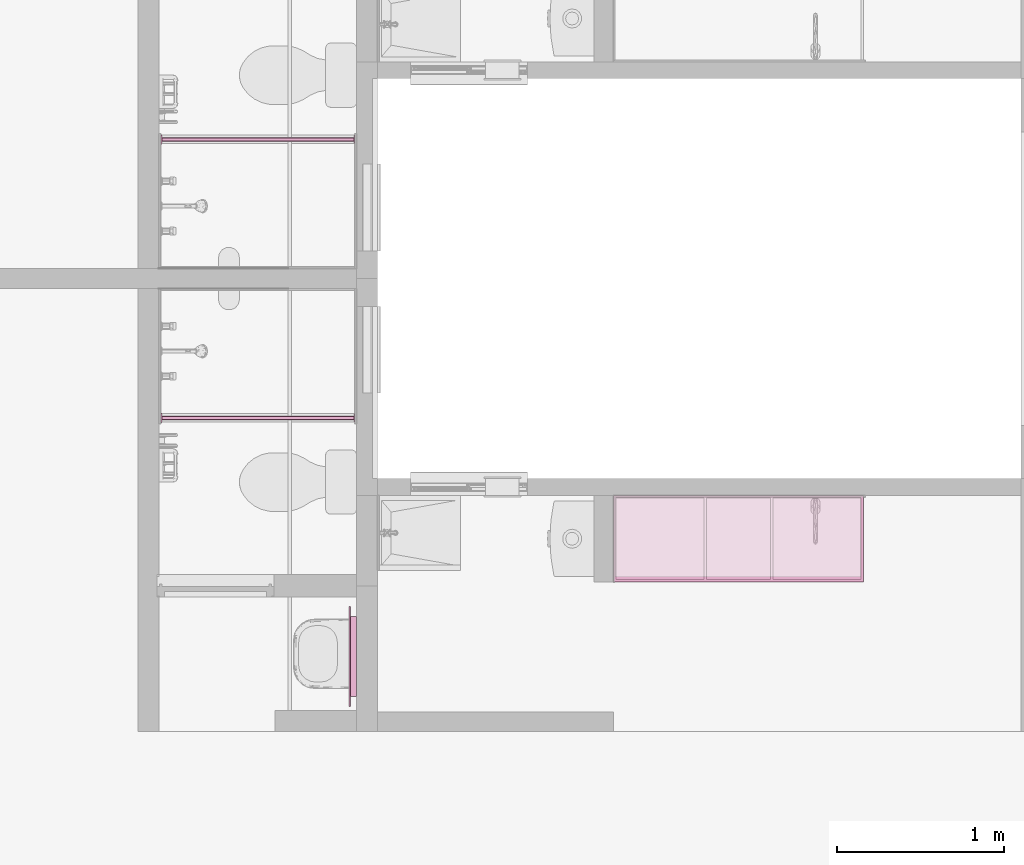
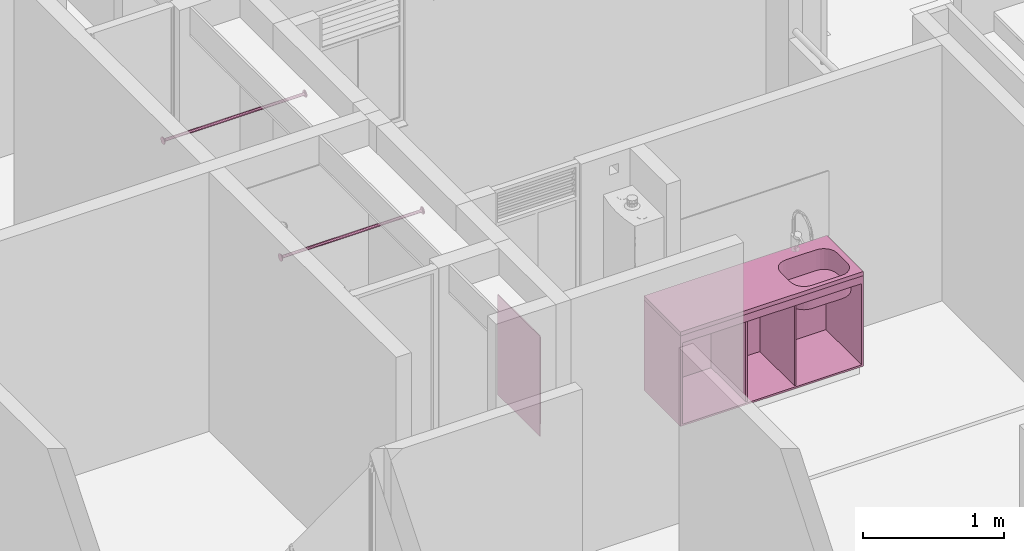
# One storey, part 42 of 48: 5 furniture elements.
"""IFC4 building model written with IfcOpenShell, lengths in metres."""

from ifc_helpers import new_model, entity, si_unit, converted_unit, derived_unit, direction, frame, origin, place, context, subcontext, project, spatial, arc, indexed_curve, outline, extrude, polygons, source, transform, mapped, material, constituent, constituent_set, type_object, type_shapes, element, save


model = new_model("IFC4")

# Units and contexts
model_context = context("Model", 3, precision=1e-05, world=origin(), true_north=direction((6.123031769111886e-17, 1.0)))
body_context = subcontext(model_context, "Body", "Model", "MODEL_VIEW")
ifc_project = project(units=[si_unit("LENGTHUNIT", "METRE"), si_unit("AREAUNIT", "SQUARE_METRE"), si_unit("VOLUMEUNIT", "CUBIC_METRE"), converted_unit("PLANEANGLEUNIT", "DEGREE", entity("IfcRatioMeasure", 0.017453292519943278), si_unit("PLANEANGLEUNIT", "RADIAN"), dimensions=[0, 0, 0, 0, 0, 0, 0]), si_unit("MASSUNIT", "GRAM", prefix="KILO"), derived_unit("MASSDENSITYUNIT", [(si_unit("MASSUNIT", "GRAM", prefix="KILO"), 1), (si_unit("LENGTHUNIT", "METRE"), -3)]), derived_unit("IONCONCENTRATIONUNIT", [(si_unit("MASSUNIT", "GRAM", prefix="KILO"), 1), (si_unit("LENGTHUNIT", "METRE"), -3)]), derived_unit("MOMENTOFINERTIAUNIT", [(si_unit("LENGTHUNIT", "METRE"), 4)]), si_unit("TIMEUNIT", "SECOND"), si_unit("FREQUENCYUNIT", "HERTZ"), si_unit("THERMODYNAMICTEMPERATUREUNIT", "DEGREE_CELSIUS"), derived_unit("THERMALTRANSMITTANCEUNIT", [(si_unit("MASSUNIT", "GRAM", prefix="KILO"), 1), (si_unit("THERMODYNAMICTEMPERATUREUNIT", "KELVIN"), -1), (si_unit("TIMEUNIT", "SECOND"), -3)]), derived_unit("THERMALCONDUCTANCEUNIT", [(si_unit("MASSUNIT", "GRAM", prefix="KILO"), 1), (si_unit("THERMODYNAMICTEMPERATUREUNIT", "KELVIN"), -1), (si_unit("TIMEUNIT", "SECOND"), -3), (si_unit("LENGTHUNIT", "METRE"), 1)]), derived_unit("VOLUMETRICFLOWRATEUNIT", [(si_unit("LENGTHUNIT", "METRE"), 3), (si_unit("TIMEUNIT", "SECOND"), -1)]), derived_unit("MASSFLOWRATEUNIT", [(si_unit("MASSUNIT", "GRAM", prefix="KILO"), 1), (si_unit("TIMEUNIT", "SECOND"), -1)]), derived_unit("ROTATIONALFREQUENCYUNIT", [(si_unit("TIMEUNIT", "SECOND"), -1)]), si_unit("ELECTRICCURRENTUNIT", "AMPERE"), si_unit("ELECTRICVOLTAGEUNIT", "VOLT"), si_unit("POWERUNIT", "WATT"), si_unit("FORCEUNIT", "NEWTON", prefix="KILO"), si_unit("ILLUMINANCEUNIT", "LUX"), si_unit("LUMINOUSFLUXUNIT", "LUMEN"), si_unit("LUMINOUSINTENSITYUNIT", "CANDELA"), derived_unit("USERDEFINED", [(si_unit("MASSUNIT", "GRAM", prefix="KILO"), -1), (si_unit("LENGTHUNIT", "METRE"), -2), (si_unit("TIMEUNIT", "SECOND"), 3), (si_unit("LUMINOUSFLUXUNIT", "LUMEN"), 1)]), derived_unit("USERDEFINED", [(si_unit("MASSUNIT", "GRAM", prefix="KILO"), 1), (si_unit("TIMEUNIT", "SECOND"), -3), (si_unit("LENGTHUNIT", "METRE"), 3), (si_unit("ELECTRICCURRENTUNIT", "AMPERE"), -2)]), derived_unit("SOUNDPOWERUNIT", [(si_unit("MASSUNIT", "GRAM", prefix="KILO"), 1), (si_unit("TIMEUNIT", "SECOND"), -3), (si_unit("LENGTHUNIT", "METRE"), 2)]), derived_unit("SOUNDPRESSUREUNIT", [(si_unit("MASSUNIT", "GRAM", prefix="KILO"), 1), (si_unit("LENGTHUNIT", "METRE"), -1), (si_unit("TIMEUNIT", "SECOND"), -2)]), derived_unit("LINEARVELOCITYUNIT", [(si_unit("LENGTHUNIT", "METRE"), 1), (si_unit("TIMEUNIT", "SECOND"), -1)]), si_unit("PRESSUREUNIT", "PASCAL"), derived_unit("USERDEFINED", [(si_unit("MASSUNIT", "GRAM", prefix="KILO"), 1), (si_unit("LENGTHUNIT", "METRE"), -2), (si_unit("TIMEUNIT", "SECOND"), -2)]), derived_unit("LINEARFORCEUNIT", [(si_unit("MASSUNIT", "GRAM", prefix="KILO"), 1), (si_unit("TIMEUNIT", "SECOND"), -2)]), derived_unit("PLANARFORCEUNIT", [(si_unit("MASSUNIT", "GRAM", prefix="KILO"), 1), (si_unit("LENGTHUNIT", "METRE"), -1), (si_unit("TIMEUNIT", "SECOND"), -2)]), derived_unit("SPECIFICHEATCAPACITYUNIT", [(si_unit("THERMODYNAMICTEMPERATUREUNIT", "KELVIN"), -1), (si_unit("LENGTHUNIT", "METRE"), 2), (si_unit("TIMEUNIT", "SECOND"), -2)]), derived_unit("HEATINGVALUEUNIT", [(si_unit("LENGTHUNIT", "METRE"), 2), (si_unit("TIMEUNIT", "SECOND"), -2)]), derived_unit("VAPORPERMEABILITYUNIT", [(si_unit("LENGTHUNIT", "METRE"), -1), (si_unit("TIMEUNIT", "SECOND"), 1)]), derived_unit("DYNAMICVISCOSITYUNIT", [(si_unit("MASSUNIT", "GRAM", prefix="KILO"), 1), (si_unit("TIMEUNIT", "SECOND"), -1), (si_unit("LENGTHUNIT", "METRE"), -1)]), derived_unit("THERMALEXPANSIONCOEFFICIENTUNIT", [(si_unit("THERMODYNAMICTEMPERATUREUNIT", "KELVIN"), -1)]), derived_unit("MODULUSOFELASTICITYUNIT", [(si_unit("MASSUNIT", "GRAM", prefix="KILO"), 1), (si_unit("LENGTHUNIT", "METRE"), -1), (si_unit("TIMEUNIT", "SECOND"), -2)]), derived_unit("ISOTHERMALMOISTURECAPACITYUNIT", [(si_unit("LENGTHUNIT", "METRE"), 3), (si_unit("MASSUNIT", "GRAM", prefix="KILO"), -1)]), derived_unit("MOISTUREDIFFUSIVITYUNIT", [(si_unit("TIMEUNIT", "SECOND"), -1), (si_unit("LENGTHUNIT", "METRE"), 2)])], contexts=[model_context])

# Site, building, storey
site_placement = place(None, origin())
site = spatial("IfcSite", under=ifc_project, at=site_placement, Name="Default", CompositionType="ELEMENT")
building_placement = place(site_placement, origin())
building = spatial("IfcBuilding", under=site, at=building_placement, CompositionType="ELEMENT")
storey_placement = place(building_placement, frame((0.0, 0.0, 7.050000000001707)))
storey = spatial("IfcBuildingStorey", under=building, at=storey_placement, Name="Nivel 4", CompositionType="ELEMENT", Elevation=7.050000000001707)

# Furniture
ifc_material_1 = material(Name="Aluminio", Category="Materials")
ifc_constituent_1 = constituent(ifc_material_1, Name="Aluminio", Category="Materials")
ifc_material_2 = material(Name="ESPEJO", Category="Materials")
ifc_constituent_2 = constituent(ifc_material_2, Name="ESPEJO", Category="Materials")
ifc_constituent_set_1 = constituent_set(constituents=[ifc_constituent_1, ifc_constituent_2])
ifc_constituent_3 = constituent(ifc_material_1, Name="Aluminio", Category="Materials")
ifc_constituent_4 = constituent(ifc_material_2, Name="ESPEJO", Category="Materials")
ifc_constituent_set_2 = constituent_set(constituents=[ifc_constituent_3, ifc_constituent_4])
furniture_type_1 = type_object("IfcFurnitureType", Name="E2050 - Espejo:E2050 - 0.60m x 0.87m - Espejo", AssemblyPlace="NOTDEFINED", PredefinedType="NOTDEFINED", material=ifc_constituent_set_2)
shared_shape_1 = source(origin(), body_context, "Body", "SweptSolid", [
    extrude(outline(indexed_curve([(-0.23999999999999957, -0.3749999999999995), (0.2399999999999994, -0.3749999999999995), (0.2399999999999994, 0.37499999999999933), (-0.23999999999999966, 0.3749999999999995), (-0.23999999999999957, -0.3749999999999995)], self_intersect=False), holes=[indexed_curve([(0.2149999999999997, -0.34999999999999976), (-0.21499999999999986, -0.34999999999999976), (-0.21499999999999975, 0.34999999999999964), (0.2149999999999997, 0.34999999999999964), (0.2149999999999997, -0.34999999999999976)], self_intersect=False)]), frame((0.12499999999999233, 0.062499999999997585, 1.485), z_axis=(0.0, 1.0, 0.0), x_axis=(1.0, 0.0, 0.0)), (0.0, 0.0, 1.0), 0.037500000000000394),
    extrude(outline(indexed_curve([(-0.00350000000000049, -0.30000000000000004), (0.00350000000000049, -0.30000000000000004), (0.00350000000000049, 0.30000000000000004), (-0.00350000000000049, 0.30000000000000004), (-0.00350000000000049, -0.30000000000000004)], self_intersect=False)), frame((0.1249999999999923, 0.10350000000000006, 1.05), z_axis=(0.0, 0.0, 1.0), x_axis=(0.0, 1.0, 0.0)), (0.0, 0.0, 1.0), 0.87),
])
type_shapes(furniture_type_1, [shared_shape_1])
furniture_1_placement = place(storey_placement, frame((4.024999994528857, -8.815000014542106, -0.02000000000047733), z_axis=(0.0, 0.0, 1.0), x_axis=(0.0, 1.0, 0.0)))
element("IfcFurniture", 1, at=furniture_1_placement, inside=storey, type_object=furniture_type_1, material=ifc_constituent_set_1, Name="E2050 - Espejo:E2050 - 0.60m x 0.87m - Espejo", ObjectType="E2050 - Espejo:E2050 - 0.60m x 0.87m - Espejo", PredefinedType="NOTDEFINED", context=body_context, shape_type="MappedRepresentation", body=[
    mapped(shared_shape_1, transform((0.0, 0.0, 0.0), scale=1.0)),
])

# Space
space_1_placement = place(storey_placement, origin())
space_1 = spatial("IfcSpace", under=storey, at=space_1_placement, Name="210", CompositionType="ELEMENT", PredefinedType="SPACE")

# Furniture
ifc_material_3 = material(Name="<Unnamed>")
furniture_type_2 = type_object("IfcFurnitureType", Name="Barra baño:E2050- Barra Baño- Acero inoxidable", AssemblyPlace="NOTDEFINED", PredefinedType="NOTDEFINED", material=ifc_material_3)
shared_shape_2 = source(origin(), body_context, "Body", "SweptSolid", [
    extrude(outline(indexed_curve([(-0.025, 0.0), (-9.341026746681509e-17, -0.025), (0.025, 2.707167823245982e-16), (-1.316959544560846e-16, 0.025)], segments=[arc(1, 2, 3), arc(3, 4, 1)], self_intersect=False)), frame((-1.1599989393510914, 0.0, 1.8000000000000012), z_axis=(1.0, 0.0, 0.0), x_axis=(0.0, 1.0, 0.0)), (0.0, 0.0, 1.0), 0.005000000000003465),
    extrude(outline(indexed_curve([(-0.03, 0.0), (-1.1209232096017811e-16, -0.029999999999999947), (0.03, 2.707167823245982e-16), (-1.3138979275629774e-16, 0.029999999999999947)], segments=[arc(1, 2, 3), arc(3, 4, 1)], self_intersect=False)), frame((-1.164998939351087, 0.0, 1.8000000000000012), z_axis=(1.0, 0.0, 0.0), x_axis=(0.0, 1.0, 0.0)), (0.0, 0.0, 1.0), 0.0049999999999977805),
    extrude(outline(indexed_curve([(-0.0125, 0.0), (-4.6705133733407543e-17, -0.012499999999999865), (0.0125, 0.0), (7.654042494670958e-19, 0.012499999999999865)], segments=[arc(1, 2, 3), arc(3, 4, 1)], self_intersect=False)), frame((-1.1549989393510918, 0.0, 1.7999999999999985), z_axis=(1.0, 0.0, 0.0), x_axis=(0.0, 1.0, 0.0)), (0.0, 0.0, 1.0), 1.149998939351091),
    extrude(outline(indexed_curve([(-0.025, 0.0), (-2.2663703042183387e-16, -0.025), (0.025, 0.0), (1.5308084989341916e-18, 0.025)], segments=[arc(1, 2, 3), arc(3, 4, 1)], self_intersect=False)), frame((-0.005000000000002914, 0.0, 1.7999999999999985), z_axis=(1.0, 0.0, 0.0), x_axis=(0.0, 1.0, 0.0)), (0.0, 0.0, 1.0), 0.005000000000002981),
    extrude(outline(indexed_curve([(-0.03, 0.0), (-2.1867373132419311e-16, -0.029999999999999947), (0.03, 0.0), (1.8369701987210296e-18, 0.029999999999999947)], segments=[arc(1, 2, 3), arc(3, 4, 1)], self_intersect=False)), frame((0.0, 0.0, 1.7999999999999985), z_axis=(1.0, 0.0, 0.0), x_axis=(0.0, 1.0, 0.0)), (0.0, 0.0, 1.0), 0.00499999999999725),
])
type_shapes(furniture_type_2, [shared_shape_2])
furniture_2_placement = place(space_1_placement, frame((3.952499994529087, -7.260000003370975, 0.1299999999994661)))
element("IfcFurniture", 2, at=furniture_2_placement, inside=space_1, type_object=furniture_type_2, material=ifc_material_3, Name="Barra baño:E2050- Barra Baño- Acero inoxidable", ObjectType="Barra baño:E2050- Barra Baño- Acero inoxidable", PredefinedType="NOTDEFINED", context=body_context, shape_type="MappedRepresentation", body=[
    mapped(shared_shape_2, transform((0.0, 0.0, 0.0), scale=1.0)),
])

# Space
space_2_placement = place(storey_placement, origin())
space_2 = spatial("IfcSpace", under=storey, at=space_2_placement, Name="202", CompositionType="ELEMENT", PredefinedType="SPACE")

# Furniture
furniture_type_3 = type_object("IfcFurnitureType", Name="Barra baño:E2050- Barra Baño- Acero inoxidable", AssemblyPlace="NOTDEFINED", PredefinedType="NOTDEFINED", material=ifc_material_3)
shared_shape_3 = source(origin(), body_context, "Body", "SweptSolid", [
    extrude(outline(indexed_curve([(-0.025, 2.707167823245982e-16), (-2.9325041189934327e-16, -0.025), (0.025, 0.0), (7.924642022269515e-17, 0.025)], segments=[arc(1, 2, 3), arc(3, 4, 1)], self_intersect=False)), frame((-1.1599989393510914, 0.0, 1.8000000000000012), z_axis=(1.0, 0.0, 0.0), x_axis=(0.0, -1.0, 0.0)), (0.0, 0.0, 1.0), 0.005000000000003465),
    extrude(outline(indexed_curve([(-0.03, 2.707167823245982e-16), (-3.2525514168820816e-16, -0.029999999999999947), (0.03, 0.0), (9.509570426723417e-17, 0.029999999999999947)], segments=[arc(1, 2, 3), arc(3, 4, 1)], self_intersect=False)), frame((-1.164998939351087, 0.0, 1.8000000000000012), z_axis=(1.0, 0.0, 0.0), x_axis=(0.0, -1.0, 0.0)), (0.0, 0.0, 1.0), 0.0049999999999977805),
    extrude(outline(indexed_curve([(-0.0125, 0.0), (-8.001182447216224e-17, -0.012499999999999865), (0.0125, 0.0), (3.9623210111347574e-17, 0.012499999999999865)], segments=[arc(1, 2, 3), arc(3, 4, 1)], self_intersect=False)), frame((-1.1549989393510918, 0.0, 1.7999999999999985), z_axis=(1.0, 0.0, 0.0), x_axis=(0.0, -1.0, 0.0)), (0.0, 0.0, 1.0), 1.149998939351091),
    extrude(outline(indexed_curve([(-0.025, 0.0), (-1.600236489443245e-16, -0.025000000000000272), (0.025, 0.0), (-5.398034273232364e-17, 0.02499999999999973)], segments=[arc(1, 2, 3), arc(3, 4, 1)], self_intersect=False)), frame((-0.005000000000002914, 0.0, 1.7999999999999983), z_axis=(1.0, 0.0, 0.0), x_axis=(0.0, -1.0, 0.0)), (0.0, 0.0, 1.0), 0.005000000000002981),
    extrude(outline(indexed_curve([(-0.03, 0.0), (-1.9202837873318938e-16, -0.030000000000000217), (0.03, 0.0), (-3.813105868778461e-17, 0.029999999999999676)], segments=[arc(1, 2, 3), arc(3, 4, 1)], self_intersect=False)), frame((0.0, 0.0, 1.7999999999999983), z_axis=(1.0, 0.0, 0.0), x_axis=(0.0, -1.0, 0.0)), (0.0, 0.0, 1.0), 0.00499999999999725),
])
type_shapes(furniture_type_3, [shared_shape_3])
furniture_3_placement = place(space_2_placement, frame((3.952499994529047, -5.590000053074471, 0.1299999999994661)))
element("IfcFurniture", 3, at=furniture_3_placement, inside=space_2, type_object=furniture_type_3, material=ifc_material_3, Name="Barra baño:E2050- Barra Baño- Acero inoxidable", ObjectType="Barra baño:E2050- Barra Baño- Acero inoxidable", PredefinedType="NOTDEFINED", context=body_context, shape_type="MappedRepresentation", body=[
    mapped(shared_shape_3, transform((0.0, 0.0, 0.0), scale=1.0)),
])

# Space
space_3_placement = place(storey_placement, origin())
space_3 = spatial("IfcSpace", under=storey, at=space_3_placement, Name="213", CompositionType="ELEMENT", PredefinedType="SPACE")

# Furniture
ifc_material_4 = material(Name="mueble cocina", Category="Materials")
furniture_type_4 = type_object("IfcFurnitureType", Name="E2010 - Mueble bajo de cocina - Madera:E2010 - 1.50 x 0.52 - Mueble bajo de cocina - Madera", AssemblyPlace="NOTDEFINED", PredefinedType="NOTDEFINED", material=ifc_material_4)
shared_shape_4 = source(origin(), body_context, "Body", "SweptSolid", [
    extrude(outline(indexed_curve([(-0.007500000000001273, -0.7349999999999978), (0.007499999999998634, -0.7349999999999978), (0.007500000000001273, 0.7349999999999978), (-0.007499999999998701, 0.7349999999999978), (-0.007500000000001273, -0.7349999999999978)], self_intersect=False)), frame((0.04470032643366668, -0.5125000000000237, 0.8149999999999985), z_axis=(0.0, 0.0, 1.0), x_axis=(0.0, -1.0, 0.0)), (0.0, 0.0, 1.0), 0.06500000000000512),
    extrude(outline(indexed_curve([(-0.2600000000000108, -0.7499999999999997), (0.260000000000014, -0.7499999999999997), (0.2600000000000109, 0.7500000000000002), (-0.2600000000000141, 0.7499999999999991), (-0.2600000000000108, -0.7499999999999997)], self_intersect=False)), frame((0.04470032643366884, -0.2600000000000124, 0.09500000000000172), z_axis=(0.0, 0.0, 1.0), x_axis=(0.0, -1.0, 0.0)), (0.0, 0.0, 1.0), 0.0149999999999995),
    extrude(outline(indexed_curve([(-0.007500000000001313, -0.7500000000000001), (0.007499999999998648, -0.7500000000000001), (0.0075000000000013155, 0.7500000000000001), (-0.007499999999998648, 0.7500000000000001), (-0.007500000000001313, -0.7500000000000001)], self_intersect=False)), frame((0.04470032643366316, -0.00749999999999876, 0.11000000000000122), z_axis=(0.0, 0.0, 1.0), x_axis=(0.0, -1.0, 0.0)), (0.0, 0.0, 1.0), 0.7700000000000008),
    extrude(outline(indexed_curve([(-0.007500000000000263, -0.24500000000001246), (0.007499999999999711, -0.24500000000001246), (0.007500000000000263, 0.24500000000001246), (-0.007499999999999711, 0.24500000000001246), (-0.007500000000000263, -0.24500000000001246)], self_intersect=False)), frame((-0.1552996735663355, -0.2600000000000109, 0.11000000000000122), z_axis=(0.0, 0.0, 1.0), x_axis=(-1.0, 0.0, 0.0)), (0.0, 0.0, 1.0), 0.7700000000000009),
    extrude(outline(indexed_curve([(-0.007499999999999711, -0.24500000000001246), (0.007500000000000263, -0.24500000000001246), (0.007499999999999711, 0.24500000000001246), (-0.007500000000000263, 0.24500000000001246), (-0.007499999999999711, -0.24500000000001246)], self_intersect=False)), frame((0.24470032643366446, -0.26000000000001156, 0.11000000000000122), z_axis=(0.0, 0.0, 1.0), x_axis=(-1.0, 0.0, 0.0)), (0.0, 0.0, 1.0), 0.7700000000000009),
    extrude(outline(indexed_curve([(-0.00750000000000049, -0.2525000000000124), (0.0074999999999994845, -0.25250000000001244), (0.007500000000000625, 0.2525000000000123), (-0.007499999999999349, 0.2525000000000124), (-0.00750000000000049, -0.2525000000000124)], self_intersect=False)), frame((0.7872003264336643, -0.2675000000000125, 0.11000000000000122), z_axis=(0.0, 0.0, 1.0), x_axis=(-1.0, 0.0, 0.0)), (0.0, 0.0, 1.0), 0.7700000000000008),
    extrude(outline(indexed_curve([(-0.007499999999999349, -0.2525000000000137), (0.007500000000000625, -0.2525000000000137), (0.0074999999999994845, 0.25250000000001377), (-0.00750000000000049, 0.2525000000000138), (-0.007499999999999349, -0.2525000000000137)], self_intersect=False)), frame((-0.697799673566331, -0.2675000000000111, 0.11000000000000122), z_axis=(0.0, 0.0, 1.0), x_axis=(-1.0, 0.0, 0.0)), (0.0, 0.0, 1.0), 0.7700000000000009),
])
type_shapes(furniture_type_4, [shared_shape_4])
furniture_4_placement = place(space_3_placement, frame((6.207799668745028, -7.7250000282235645, 0.014999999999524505)))
element("IfcFurniture", 4, at=furniture_4_placement, inside=space_3, type_object=furniture_type_4, material=ifc_material_4, Name="E2010 - Mueble bajo de cocina - Madera:E2010 - 1.50 x 0.52 - Mueble bajo de cocina - Madera", ObjectType="E2010 - Mueble bajo de cocina - Madera:E2010 - 1.50 x 0.52 - Mueble bajo de cocina - Madera", PredefinedType="NOTDEFINED", context=body_context, shape_type="MappedRepresentation", body=[
    mapped(shared_shape_4, transform((0.0, 0.0, 0.0), scale=1.0)),
])
ifc_material_5 = material(Name="Mesón cocina", Category="Materials")
furniture_type_5 = type_object("IfcFurnitureType", Name="E1060 - Meson Socoda Radiante - 1.50 X 0.52 - Acero inoxidable:E1060 - 1.50 x 0.52 - Meson de cocina, lavadero y estufa - Acero inoxidable", AssemblyPlace="NOTDEFINED", PredefinedType="NOTDEFINED", material=ifc_material_5)
shared_shape_5 = source(origin(), body_context, "Body", "Tessellation", [
    polygons([(0.7500000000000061, 0.2600000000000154, 0.03499999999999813), (-0.7499999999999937, 0.2600000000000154, 0.03499999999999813), (-0.7499999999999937, -0.2600000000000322, 0.03499999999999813), (0.7500000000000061, -0.2600000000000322, 0.03499999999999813), (0.23610399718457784, 0.03077661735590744, 0.03499999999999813), (0.23985215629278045, 0.05924671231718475, 0.03499999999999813), (0.2508412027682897, 0.08577661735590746, 0.03499999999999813), (0.2683222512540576, 0.10855836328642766, 0.03499999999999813), (0.2911039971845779, 0.1260394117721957, 0.03499999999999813), (0.31763390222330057, 0.13702845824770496, 0.03499999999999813), (0.3461039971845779, 0.1407766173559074, 0.03499999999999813), (0.593473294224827, 0.14077661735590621, 0.03499999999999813), (0.6219433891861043, 0.13702845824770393, 0.03499999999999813), (0.6484732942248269, 0.1260394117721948, 0.03499999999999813), (0.6712550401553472, 0.10855836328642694, 0.03499999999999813), (0.6887360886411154, 0.08577661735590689, 0.03499999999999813), (0.6997251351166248, 0.05924671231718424, 0.03499999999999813), (0.7034732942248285, 0.03077661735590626, 0.03499999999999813), (0.703473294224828, -0.11422338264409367, 0.03499999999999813), (0.6997251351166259, -0.14269347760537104, 0.03499999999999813), (0.6887360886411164, -0.1692233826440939, 0.03499999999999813), (0.6712550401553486, -0.1920051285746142, 0.03499999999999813), (0.6484732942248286, -0.20948617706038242, 0.03499999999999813), (0.6219433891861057, -0.22047522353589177, 0.03499999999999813), (0.5934732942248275, -0.22422338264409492, 0.03499999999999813), (0.3461039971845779, -0.22422338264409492, 0.03499999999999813), (0.31763390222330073, -0.22047522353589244, 0.03499999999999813), (0.2911039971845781, -0.20948617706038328, 0.03499999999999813), (0.2683222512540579, -0.1920051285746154, 0.03499999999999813), (0.2508412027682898, -0.1692233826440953, 0.03499999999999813), (0.23985215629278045, -0.14269347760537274, 0.03499999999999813), (0.23610399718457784, -0.11422338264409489, 0.03499999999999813), (0.7500000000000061, 0.2600000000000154, -1.8678232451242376e-15), (0.7500000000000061, -0.2600000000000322, -1.8678232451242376e-15), (-0.7499999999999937, -0.2600000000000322, -1.8678232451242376e-15), (-0.7499999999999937, 0.2600000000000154, -1.8678232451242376e-15), (0.5934732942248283, 0.1507766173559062, -1.8678232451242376e-15), (0.34610399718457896, 0.1507766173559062, -1.8678232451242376e-15), (0.31504571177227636, 0.1466877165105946, -1.8678232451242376e-15), (0.2861039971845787, 0.13469966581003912, -1.8678232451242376e-15), (0.2612511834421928, 0.11562943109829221, -1.8678232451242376e-15), (0.2421809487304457, 0.09077661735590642, -1.8678232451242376e-15), (0.23019289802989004, 0.06183490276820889, -1.8678232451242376e-15), (0.22610399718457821, 0.030776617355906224, -1.8678232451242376e-15), (0.22610399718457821, -0.11422338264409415, -1.8678232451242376e-15), (0.2301928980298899, -0.14528166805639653, -1.8678232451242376e-15), (0.24218094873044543, -0.17422338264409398, -1.8678232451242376e-15), (0.2612511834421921, -0.19907619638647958, -1.8678232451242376e-15), (0.2861039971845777, -0.2181464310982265, -1.8678232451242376e-15), (0.31504571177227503, -0.2301344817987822, -1.8678232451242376e-15), (0.3461039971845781, -0.23422338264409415, -1.8678232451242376e-15), (0.5934732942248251, -0.23422338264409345, -1.8678232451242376e-15), (0.6245315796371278, -0.2301344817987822, -1.8678232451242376e-15), (0.6534732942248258, -0.21814643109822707, -1.8678232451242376e-15), (0.6783261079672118, -0.19907619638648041, -1.8678232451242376e-15), (0.6973963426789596, -0.17422338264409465, -1.8678232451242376e-15), (0.7093843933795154, -0.14528166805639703, -1.8678232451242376e-15), (0.7134732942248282, -0.11422338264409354, -1.8678232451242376e-15), (0.7134732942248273, 0.030776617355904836, -1.8678232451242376e-15), (0.7093843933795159, 0.061834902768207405, -1.8678232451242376e-15), (0.6973963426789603, 0.09077661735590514, -1.8678232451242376e-15), (0.6783261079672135, 0.11562943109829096, -1.8678232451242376e-15), (0.6534732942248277, 0.13469966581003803, -1.8678232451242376e-15), (0.62453157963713, 0.1466877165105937, -1.8678232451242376e-15), (0.5934732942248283, 0.15077661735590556, -0.16000000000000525), (0.6245315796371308, 0.1466877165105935, -0.16000000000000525), (0.6534732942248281, 0.13469966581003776, -0.16000000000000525), (0.6783261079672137, 0.1156294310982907, -0.16000000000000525), (0.6973963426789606, 0.0907766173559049, -0.16000000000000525), (0.7093843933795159, 0.06183490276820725, -0.16000000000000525), (0.7134732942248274, 0.030776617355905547, -0.16000000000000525), (0.7134732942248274, -0.11422338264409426, -0.16000000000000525), (0.7093843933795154, -0.1452816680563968, -0.16000000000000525), (0.6973963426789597, -0.1742233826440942, -0.16000000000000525), (0.6783261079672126, -0.19907619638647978, -0.16000000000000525), (0.6534732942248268, -0.21814643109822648, -0.16000000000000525), (0.6245315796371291, -0.2301344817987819, -0.16000000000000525), (0.5934732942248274, -0.2342233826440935, -0.16000000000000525), (0.3461039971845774, -0.23422338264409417, -0.16000000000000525), (0.3150457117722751, -0.23013448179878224, -0.16000000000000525), (0.28610399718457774, -0.21814643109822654, -0.16000000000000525), (0.26125118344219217, -0.19907619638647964, -0.16000000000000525), (0.24218094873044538, -0.17422338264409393, -0.16000000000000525), (0.2301928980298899, -0.14528166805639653, -0.16000000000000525), (0.22610399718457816, -0.11422338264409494, -0.16000000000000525), (0.22610399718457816, 0.030776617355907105, -0.16000000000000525), (0.23019289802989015, 0.06183490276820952, -0.16000000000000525), (0.2421809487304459, 0.09077661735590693, -0.16000000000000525), (0.261251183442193, 0.11562943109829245, -0.16000000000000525), (0.2861039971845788, 0.13469966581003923, -0.16000000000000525), (0.31504571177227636, 0.1466877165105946, -0.16000000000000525), (0.3461039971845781, 0.1507766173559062, -0.16000000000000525), (0.3461039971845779, 0.14077661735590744, -0.14475899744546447), (0.31763390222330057, 0.13702845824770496, -0.14475899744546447), (0.2911039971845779, 0.1260394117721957, -0.14475899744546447), (0.2683222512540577, 0.10855836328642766, -0.14475899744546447), (0.25084120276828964, 0.08577661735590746, -0.14475899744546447), (0.2398521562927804, 0.05924671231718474, -0.14475899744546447), (0.23610399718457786, 0.03077661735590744, -0.14475899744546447), (0.23610399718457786, -0.11422338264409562, -0.14475899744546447), (0.23985215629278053, -0.14269347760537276, -0.14475899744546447), (0.25084120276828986, -0.16922338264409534, -0.14475899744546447), (0.2683222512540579, -0.19200512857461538, -0.14475899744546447), (0.2911039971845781, -0.20948617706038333, -0.14475899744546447), (0.31763390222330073, -0.22047522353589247, -0.14475899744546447), (0.3461039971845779, -0.2242233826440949, -0.14475899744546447), (0.5934732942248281, -0.22422338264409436, -0.14475899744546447), (0.6219433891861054, -0.22047522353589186, -0.14475899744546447), (0.6484732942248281, -0.20948617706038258, -0.14475899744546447), (0.6712550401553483, -0.19200512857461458, -0.14475899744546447), (0.6887360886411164, -0.16922338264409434, -0.14475899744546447), (0.6997251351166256, -0.14269347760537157, -0.14475899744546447), (0.7034732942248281, -0.11422338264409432, -0.14475899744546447), (0.7034732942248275, 0.030776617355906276, -0.14475899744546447), (0.699725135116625, 0.05924671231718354, -0.14475899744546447), (0.6887360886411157, 0.08577661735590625, -0.14475899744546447), (0.6712550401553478, 0.10855836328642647, -0.14475899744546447), (0.6484732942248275, 0.1260394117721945, -0.14475899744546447), (0.6219433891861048, 0.13702845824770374, -0.14475899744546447), (0.5934732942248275, 0.14077661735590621, -0.14475899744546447)], [[[1, 2, 3, 4], [17, 18, 19, 20, 21, 22, 23, 24, 25, 26, 27, 28, 29, 30, 31, 32, 5, 6, 7, 8, 9, 10, 11, 12, 13, 14, 15, 16]], [[118, 119, 120, 93, 94, 95, 96, 97, 98, 99, 100, 101, 102, 103, 104, 105, 106, 107, 108, 109, 110, 111, 112, 113, 114, 115, 116, 117]], [[36, 33, 34, 35], [43, 44, 45, 46, 47, 48, 49, 50, 51, 52, 53, 54, 55, 56, 57, 58, 59, 60, 61, 62, 63, 64, 37, 38, 39, 40, 41, 42]], [[89, 90, 91, 92, 65, 66, 67, 68, 69, 70, 71, 72, 73, 74, 75, 76, 77, 78, 79, 80, 81, 82, 83, 84, 85, 86, 87, 88]], [[2, 1, 33, 36]], [[38, 37, 65, 92]], [[106, 26, 25, 107]], [[3, 2, 36, 35]], [[45, 44, 86, 85]], [[114, 113, 19, 18]], [[4, 3, 35, 34]], [[52, 51, 79, 78]], [[120, 12, 11, 93]], [[1, 4, 34, 33]], [[59, 58, 72, 71]], [[99, 5, 32, 100]], [[39, 91, 90, 40]], [[109, 108, 24, 23]], [[40, 90, 89, 41]], [[110, 109, 23, 22]], [[92, 91, 39, 38]], [[25, 24, 108, 107]], [[42, 88, 87, 43]], [[112, 111, 21, 20]], [[43, 87, 86, 44]], [[113, 112, 20, 19]], [[41, 89, 88, 42]], [[21, 111, 110, 22]], [[46, 84, 83, 47]], [[17, 16, 116, 115]], [[47, 83, 82, 48]], [[16, 15, 117, 116]], [[85, 84, 46, 45]], [[115, 114, 18, 17]], [[49, 81, 80, 50]], [[119, 118, 14, 13]], [[50, 80, 79, 51]], [[120, 119, 13, 12]], [[48, 82, 81, 49]], [[14, 118, 117, 15]], [[53, 77, 76, 54]], [[95, 94, 10, 9]], [[54, 76, 75, 55]], [[96, 95, 9, 8]], [[78, 77, 53, 52]], [[11, 10, 94, 93]], [[56, 74, 73, 57]], [[98, 97, 7, 6]], [[57, 73, 72, 58]], [[99, 98, 6, 5]], [[55, 75, 74, 56]], [[7, 97, 96, 8]], [[60, 70, 69, 61]], [[102, 101, 31, 30]], [[61, 69, 68, 62]], [[103, 102, 30, 29]], [[71, 70, 60, 59]], [[32, 31, 101, 100]], [[63, 67, 66, 64]], [[105, 104, 28, 27]], [[64, 66, 65, 37]], [[106, 105, 27, 26]], [[62, 68, 67, 63]], [[28, 104, 103, 29]]], closed=True),
])
type_shapes(furniture_type_5, [shared_shape_5])
furniture_5_placement = place(space_3_placement, frame((6.252499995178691, -7.98500002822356, 0.8949999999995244)))
element("IfcFurniture", 5, at=furniture_5_placement, inside=space_3, type_object=furniture_type_5, material=ifc_material_5, Name="E1060 - Meson Socoda Radiante - 1.50 X 0.52 - Acero inoxidable:E1060 - 1.50 x 0.52 - Meson de cocina, lavadero y estufa - Acero inoxidable", ObjectType="E1060 - Meson Socoda Radiante - 1.50 X 0.52 - Acero inoxidable:E1060 - 1.50 x 0.52 - Meson de cocina, lavadero y estufa - Acero inoxidable", PredefinedType="NOTDEFINED", context=body_context, shape_type="MappedRepresentation", body=[
    mapped(shared_shape_5, transform((0.0, 0.0, 0.0), scale=1.0)),
])

save(model, "model.ifc")
